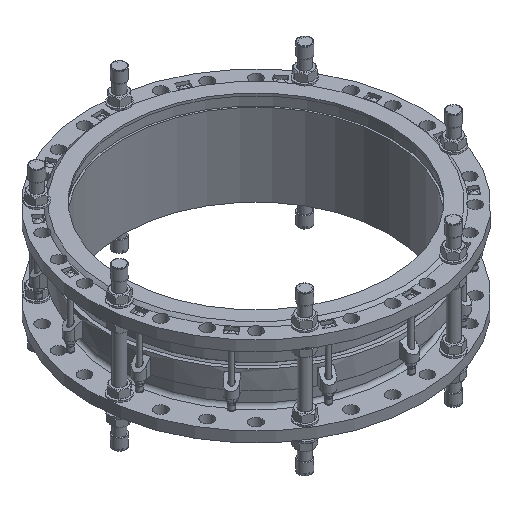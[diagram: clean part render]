
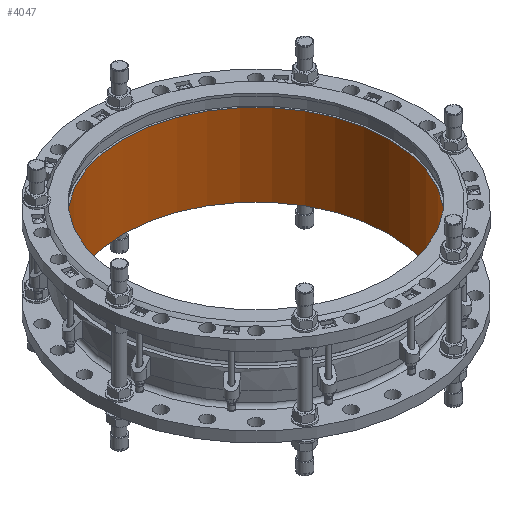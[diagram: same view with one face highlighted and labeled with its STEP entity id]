
A CAD part, isometric view. The second image highlights one B-rep face of the part: STEP entity #4047.
In plain terms, the highlighted cylindrical face has radius 450 mm (diameter 900 mm), a full revolution.
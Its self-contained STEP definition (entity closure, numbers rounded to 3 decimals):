
#4047=ADVANCED_FACE('',(#4892,#4894),#4896,.F.);
#4892=FACE_OUTER_BOUND('',#4893,.T.);
#4893=EDGE_LOOP('',(#8656));
#4894=FACE_OUTER_BOUND('',#4895,.T.);
#4895=EDGE_LOOP('',(#8657));
#4896=CYLINDRICAL_SURFACE('',#4897,450.);
#4897=AXIS2_PLACEMENT_3D('',#4898,#4899,#4900);
#4898=CARTESIAN_POINT('',(0.,0.,0.));
#4899=DIRECTION('',(0.,0.,1.));
#4900=DIRECTION('',(-1.,0.,0.));
#8656=ORIENTED_EDGE('',*,*,#11311,.F.);
#8657=ORIENTED_EDGE('',*,*,#11312,.F.);
#11311=EDGE_CURVE('',#12554,#12554,#12555,.T.);
#11312=EDGE_CURVE('',#12556,#12556,#12557,.T.);
#12554=VERTEX_POINT('',#14693);
#12555=CIRCLE('',#14694,450.);
#12556=VERTEX_POINT('',#14698);
#12557=CIRCLE('',#14699,450.);
#14693=CARTESIAN_POINT('',(-450.,0.,278.));
#14694=AXIS2_PLACEMENT_3D('',#14695,#14696,#14697);
#14695=CARTESIAN_POINT('',(0.,0.,278.));
#14696=DIRECTION('',(0.,0.,-1.));
#14697=DIRECTION('',(-1.,0.,0.));
#14698=CARTESIAN_POINT('',(-450.,0.,0.));
#14699=AXIS2_PLACEMENT_3D('',#14700,#14701,#14702);
#14700=CARTESIAN_POINT('',(0.,0.,0.));
#14701=DIRECTION('',(0.,0.,1.));
#14702=DIRECTION('',(-1.,0.,0.));
